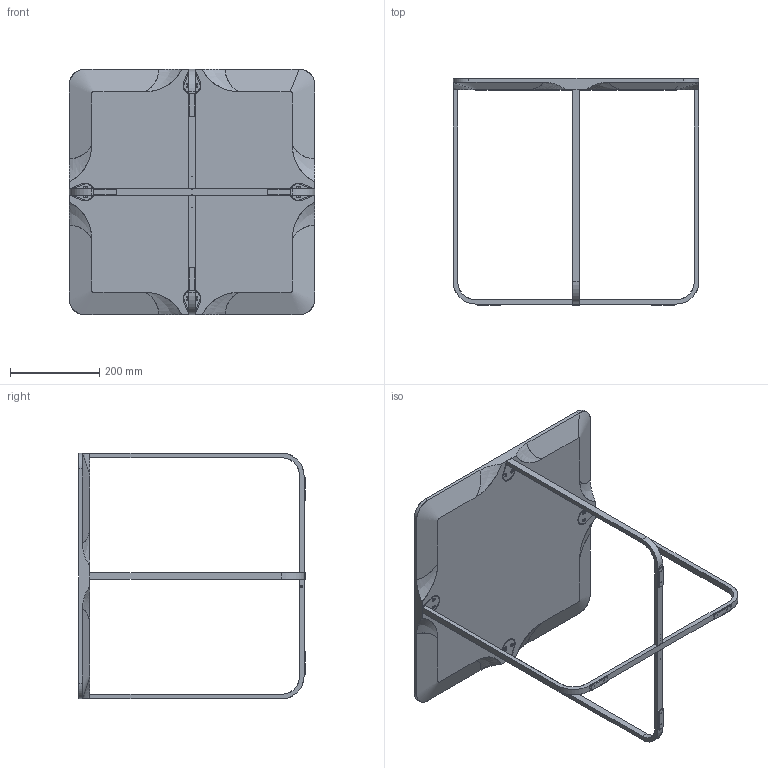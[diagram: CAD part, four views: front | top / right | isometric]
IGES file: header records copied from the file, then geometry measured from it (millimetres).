
Start section: SolidWorks IGES file using analytic representation for surfaces
Global section: file name: C:\Users\Kentie3D\Projecten\2013\1319 Montis verkoop info\Flint\Flint tafel 0550-500 vierkant.IGS; native system: SolidWorks 2013; preprocessor: SolidWorks 2013; author: Kentie3D; date: 131212.154443; units: millimetre
Bounding box: 550 x 508 x 550 mm (x, y, z)
Surface area: 802081.5 mm2 (no closed solid volume)
Topology: 0 solids, 0 shells, 384 faces, 5481 edges, 5457 vertices
Faces by surface type: revolution 219, bspline 165
